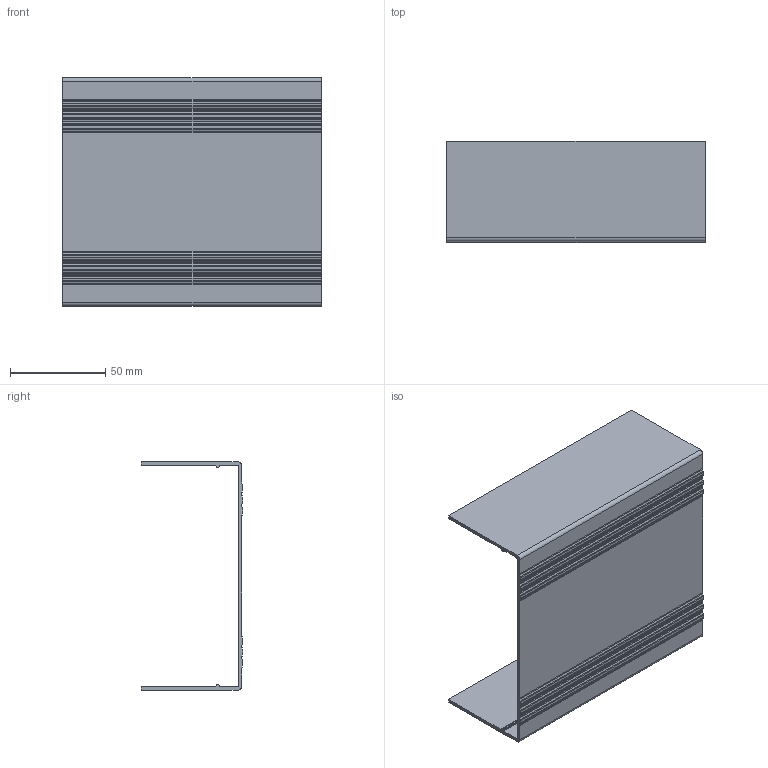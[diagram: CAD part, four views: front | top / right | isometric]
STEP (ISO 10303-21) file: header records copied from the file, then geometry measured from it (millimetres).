
FILE_DESCRIPTION (( 'STEP AP214' ), '1' );
FILE_NAME ('53316.STEP', '2022-08-03T08:09:52', ( 'Windows User' ), ( 'P R C' ), 'SwSTEP 2.0', 'SolidWorks 2019', '' );
FILE_SCHEMA (( 'AUTOMOTIVE_DESIGN' ));
Length unit declared in the file: millimetre
Products named in the file (1): 53316
Bounding box: 136.03 x 53.4 x 120 mm (x, y, z)
Volume: 56040.5 mm3; surface area: 61953.5 mm2
Topology: 1 solids, 1 shells, 74 faces, 216 edges, 144 vertices
Faces by surface type: plane 42, cylinder 32
Entity records: 2498 total; most frequent: CARTESIAN_POINT 435, ORIENTED_EDGE 432, DIRECTION 430, EDGE_CURVE 216, LINE 152, VECTOR 152, VERTEX_POINT 144, AXIS2_PLACEMENT_3D 139
